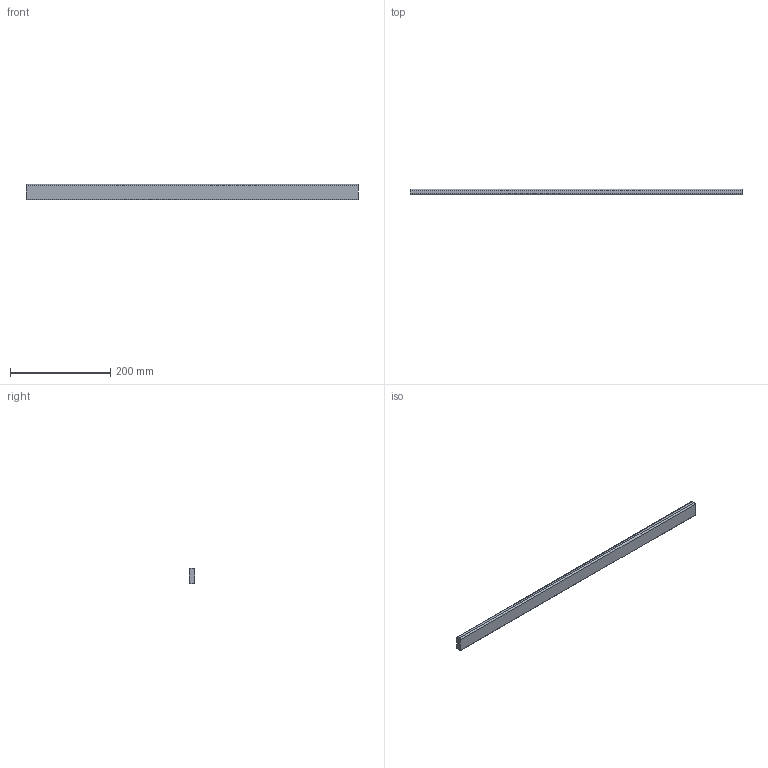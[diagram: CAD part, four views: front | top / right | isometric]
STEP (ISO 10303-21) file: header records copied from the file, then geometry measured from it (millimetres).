
FILE_DESCRIPTION (( 'STEP AP214' ), '1' );
FILE_NAME ('_Querreling_KAB-750_KS-16.step', '2010-08-26T14:59:02', ( 'grass' ), ( '' ), 'SwSTEP 2.0', 'SolidWorks 2009', '' );
FILE_SCHEMA (( 'AUTOMOTIVE_DESIGN' ));
Length unit declared in the file: millimetre
Products named in the file (1): _Querreling_KAB-750_KS-16
Bounding box: 662.5 x 10.5 x 30 mm (x, y, z)
Volume: 205844 mm3; surface area: 52009.1 mm2
Topology: 1 solids, 1 shells, 10 faces, 24 edges, 16 vertices
Faces by surface type: plane 6, cylinder 4
Entity records: 330 total; most frequent: DIRECTION 54, CARTESIAN_POINT 51, ORIENTED_EDGE 48, EDGE_CURVE 24, AXIS2_PLACEMENT_3D 19, LINE 16, VECTOR 16, VERTEX_POINT 16
